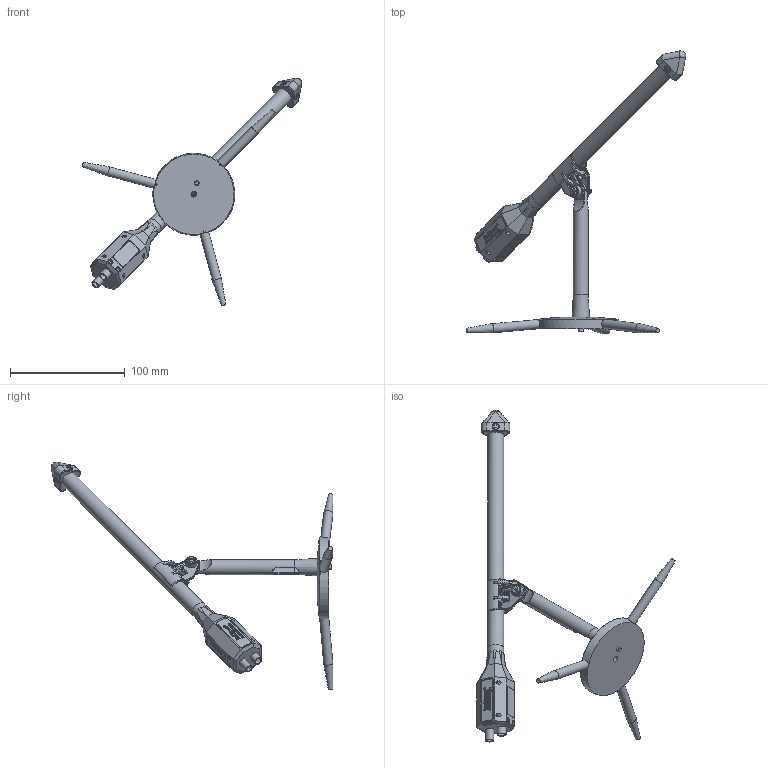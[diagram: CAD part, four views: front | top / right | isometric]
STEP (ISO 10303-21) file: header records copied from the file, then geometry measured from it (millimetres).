
FILE_DESCRIPTION(/* description */ ('Alibre Inc.'),/* implementation_level */ '2;1');
FILE_NAME(/* name */ 'export-F7CF70DD-5212-447D-BF7D-F698DB176D04',/* time_stamp */ '2023-02-28T15:08:17+01:00',/* author */ (''),/* organization */ (''),/* preprocessor_version */ 'ST-DEVELOPER v17',/* originating_system */ 'Alibre',/* authorisation */ '');
FILE_SCHEMA (('AUTOMOTIVE_DESIGN'));
Length unit declared in the file: millimetre
Products named in the file (9): DIN 934 Nut M4; VITE_TESTA_CILINDRICA_PHILLIPS; VITE_TESTA_ESAGONALE
Bounding box: 191.06 x 245.12 x 198.11 mm (x, y, z)
Volume: 133762.3 mm3; surface area: 47188.9 mm2
Topology: 10 solids, 10 shells, 4100 faces, 11299 edges, 7413 vertices
Faces by surface type: bspline 2390, plane 1279, cylinder 294, torus 101, cone 19, sphere 17
Full cylindrical faces by diameter (mm): 3 x4, 3.2 x4, 3.242 x2, 3.3 x1, 3.8 x2, 4 x4, 4.2 x3, 4.5 x2, 4.7 x2, 4.917 x3, 4.978 x1, 5 x1, 6 x1, 6.98 x1, 7 x2, 8 x4, 10 x2, 12.2 x1, 13 x1, 14 x1
Entity records: 141536 total; most frequent: CARTESIAN_POINT 55659, ORIENTED_EDGE 22238, EDGE_CURVE 11119, DIRECTION 8806, VERTEX_POINT 7347, VECTOR 5517, LINE 5517, B_SPLINE_CURVE_WITH_KNOTS 4889
